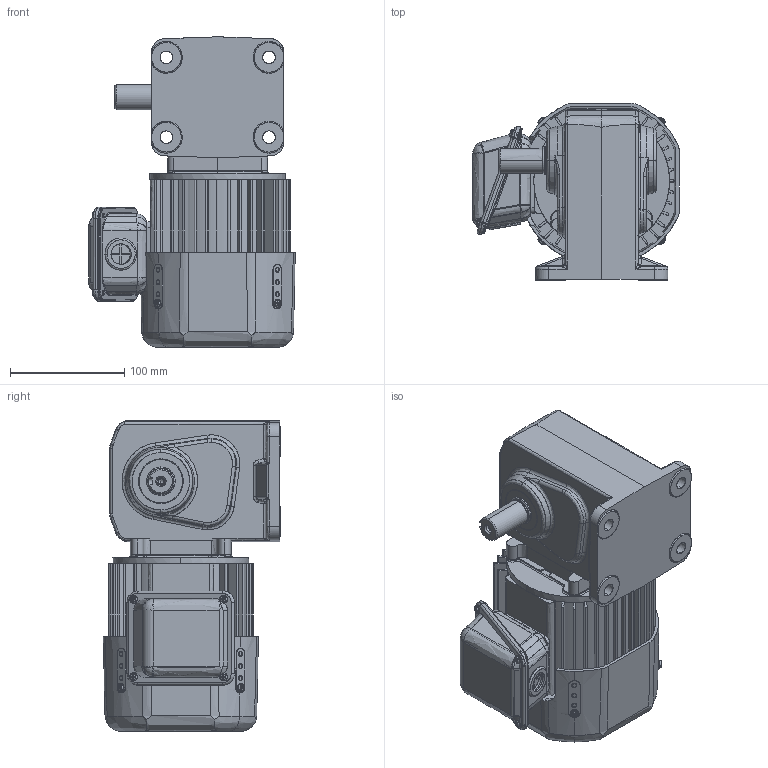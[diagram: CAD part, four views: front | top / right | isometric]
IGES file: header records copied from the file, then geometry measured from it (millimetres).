
Start section: SolidWorks IGES file using analytic representation for surfaces
Global section: file name: \\100.100.100.8\1_共有作業フォルダ\1-5_３Ｄデータ\solidworks\personal-folder\H.Nagayama\HL外形\HL(3D)\igs\TMHLB-01-(5~240)A.IGS; native system: SolidWorks 2018; preprocessor: SolidWorks 2018; author: sigma-giken; date: 200324.145343; units: millimetre
Bounding box: 181 x 155.5 x 272.1 mm (x, y, z)
Surface area: 427874.6 mm2 (no closed solid volume)
Topology: 0 solids, 0 shells, 1884 faces, 24365 edges, 24280 vertices
Faces by surface type: bspline 965, revolution 919
